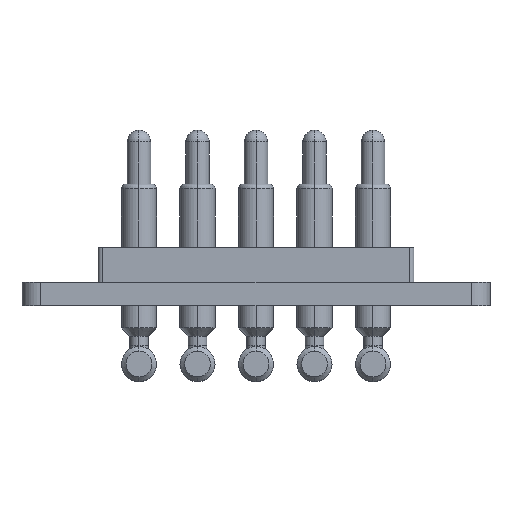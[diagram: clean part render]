
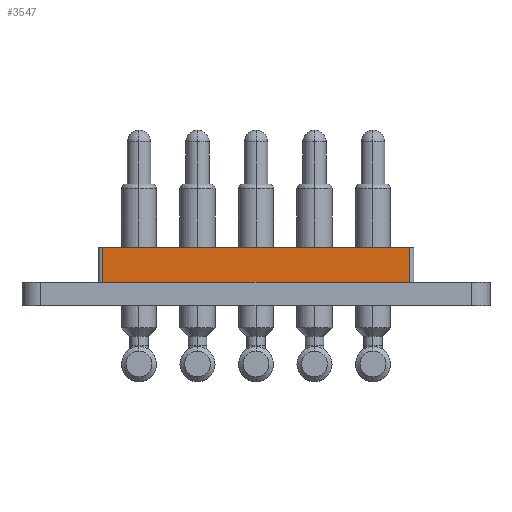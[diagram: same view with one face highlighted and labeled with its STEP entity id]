
A CAD part, top view. The second image highlights one B-rep face of the part: STEP entity #3547.
In plain terms, the highlighted planar face has unit normal (0, 0, 1).
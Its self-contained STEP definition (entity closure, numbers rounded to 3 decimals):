
#619=DIRECTION('',(0.,1.,0.));
#620=VECTOR('',#619,1.5);
#621=CARTESIAN_POINT('',(6.55,1.,3.));
#622=LINE('',#621,#620);
#627=DIRECTION('',(-1.,0.,0.));
#628=VECTOR('',#627,13.1);
#629=CARTESIAN_POINT('',(6.55,1.,3.));
#630=LINE('',#629,#628);
#635=DIRECTION('',(0.,-1.,0.));
#636=VECTOR('',#635,1.5);
#637=CARTESIAN_POINT('',(-6.55,2.5,3.));
#638=LINE('',#637,#636);
#662=DIRECTION('',(-1.,0.,0.));
#663=VECTOR('',#662,13.1);
#664=CARTESIAN_POINT('',(6.55,2.5,3.));
#665=LINE('',#664,#663);
#2235=CARTESIAN_POINT('',(-6.55,1.,3.));
#2236=VERTEX_POINT('',#2235);
#2237=CARTESIAN_POINT('',(6.55,1.,3.));
#2238=VERTEX_POINT('',#2237);
#2323=CARTESIAN_POINT('',(6.55,2.5,3.));
#2324=VERTEX_POINT('',#2323);
#2325=CARTESIAN_POINT('',(-6.55,2.5,3.));
#2326=VERTEX_POINT('',#2325);
#3534=CARTESIAN_POINT('',(-6.75,1.,3.));
#3535=DIRECTION('',(0.,0.,1.));
#3536=DIRECTION('',(1.,0.,0.));
#3537=AXIS2_PLACEMENT_3D('',#3534,#3535,#3536);
#3538=PLANE('',#3537);
#3540=ORIENTED_EDGE('',*,*,#3539,.F.);
#3542=ORIENTED_EDGE('',*,*,#3541,.F.);
#3543=ORIENTED_EDGE('',*,*,#3525,.F.);
#3544=ORIENTED_EDGE('',*,*,#2934,.T.);
#3545=EDGE_LOOP('',(#3540,#3542,#3543,#3544));
#3546=FACE_OUTER_BOUND('',#3545,.F.);
#3547=ADVANCED_FACE('',(#3546),#3538,.T.);
#2934=EDGE_CURVE('',#2238,#2236,#630,.T.);
#3525=EDGE_CURVE('',#2238,#2324,#622,.T.);
#3539=EDGE_CURVE('',#2326,#2236,#638,.T.);
#3541=EDGE_CURVE('',#2324,#2326,#665,.T.);
